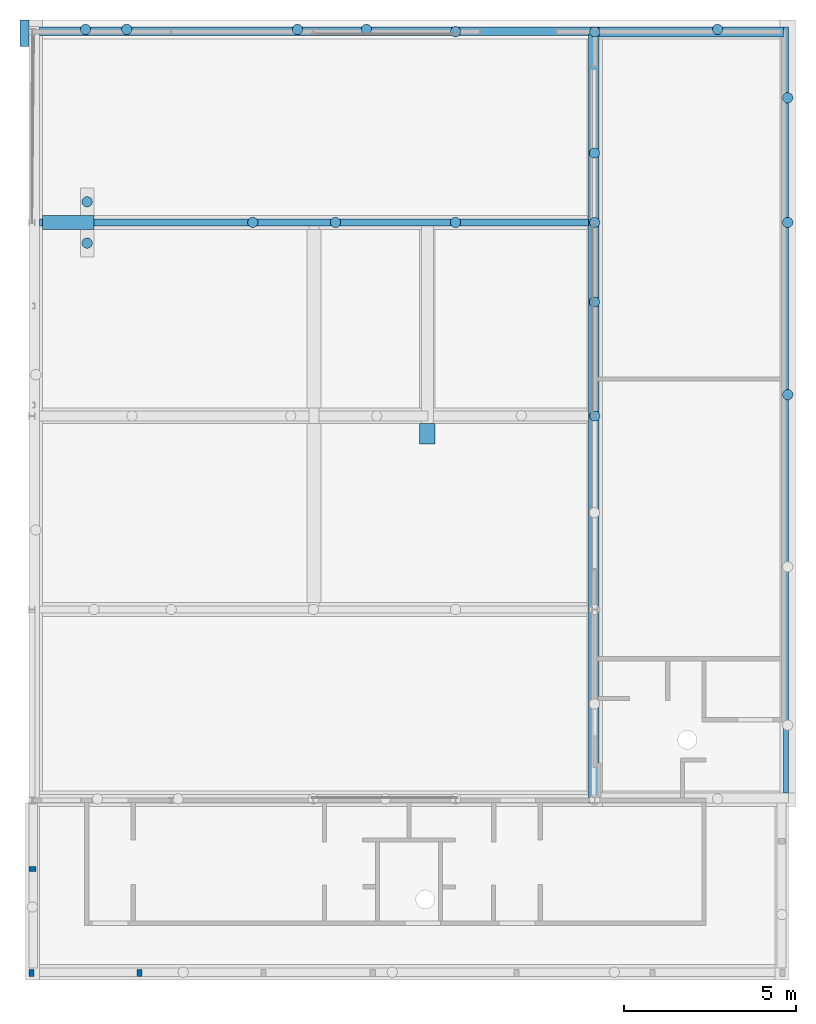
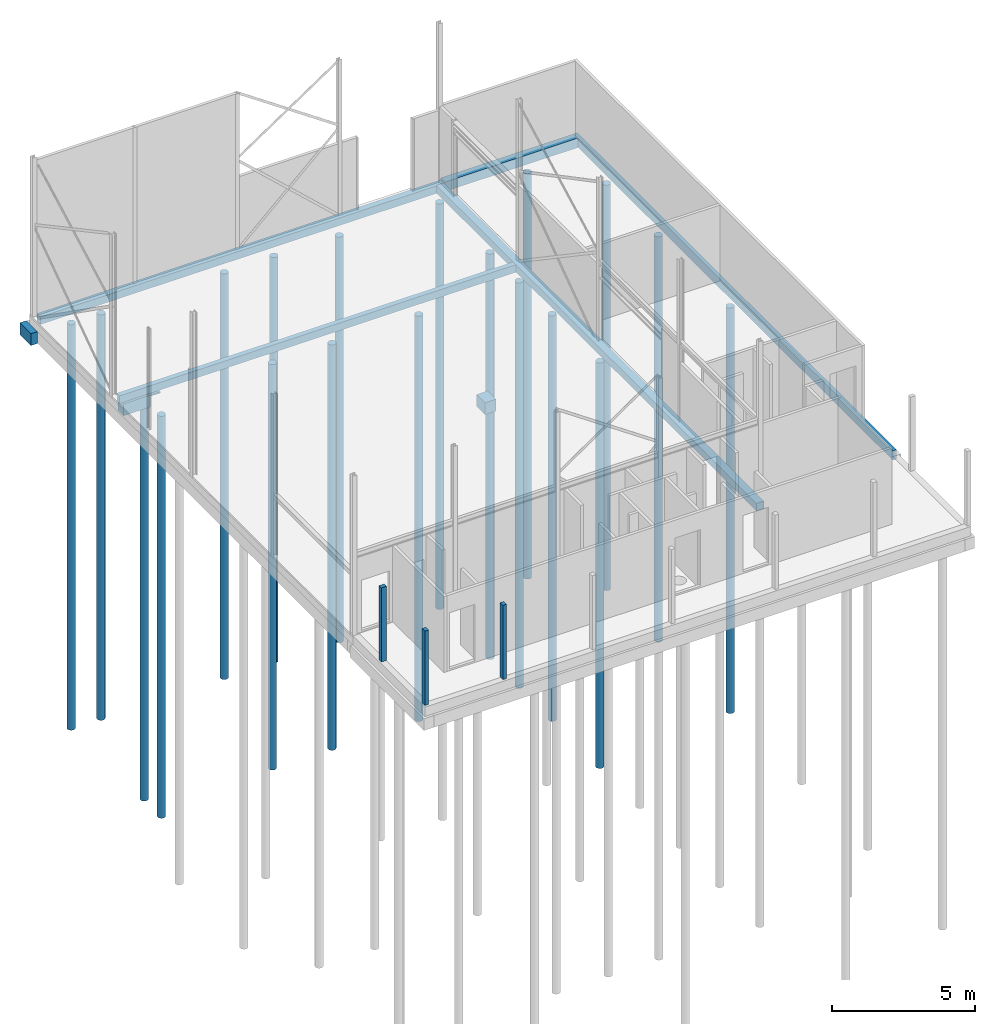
# One storey, part 2 of 17: 19 piles, 8 footings, 3 columns.
"""IFC2X3 building model written with IfcOpenShell, lengths in millimetres."""

from ifc_helpers import new_model, entity, si_unit, converted_unit, derived_unit, direction, frame, frame_2d, origin, origin_2d_with_axis, place, context, subcontext, project, spatial, polyline, rectangle, circle, outline, extrude, source, transform, mapped, material, type_object, type_shapes, element, save


model = new_model("IFC2X3")

# Units and contexts
model_context = context("Model", 3, precision=0.01, world=origin(), true_north=direction((6.123031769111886e-17, 1.0)))
plan_context = context("Plan", 3, precision=0.01, world=origin(), true_north=direction((6.123031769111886e-17, 1.0)))
body_context = subcontext(model_context, "Body", "Model", "MODEL_VIEW")
ifc_project = project(units=[si_unit("LENGTHUNIT", "METRE", prefix="MILLI"), si_unit("AREAUNIT", "SQUARE_METRE"), si_unit("VOLUMEUNIT", "CUBIC_METRE"), converted_unit("PLANEANGLEUNIT", "DEGREE", entity("IfcPlaneAngleMeasure", 0.017453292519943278), si_unit("PLANEANGLEUNIT", "RADIAN"), dimensions=[0, 0, 0, 0, 0, 0, 0]), si_unit("MASSUNIT", "GRAM", prefix="KILO"), derived_unit("MASSDENSITYUNIT", [(si_unit("MASSUNIT", "GRAM", prefix="KILO"), 1), (si_unit("LENGTHUNIT", "METRE"), -3)]), derived_unit("IONCONCENTRATIONUNIT", [(si_unit("MASSUNIT", "GRAM", prefix="KILO"), 1), (si_unit("LENGTHUNIT", "METRE"), -3)]), derived_unit("MOMENTOFINERTIAUNIT", [(si_unit("LENGTHUNIT", "METRE"), 4)]), si_unit("TIMEUNIT", "SECOND"), si_unit("FREQUENCYUNIT", "HERTZ"), si_unit("THERMODYNAMICTEMPERATUREUNIT", "DEGREE_CELSIUS"), derived_unit("THERMALTRANSMITTANCEUNIT", [(si_unit("MASSUNIT", "GRAM", prefix="KILO"), 1), (si_unit("THERMODYNAMICTEMPERATUREUNIT", "KELVIN"), -1), (si_unit("TIMEUNIT", "SECOND"), -3)]), derived_unit("THERMALCONDUCTANCEUNIT", [(si_unit("MASSUNIT", "GRAM", prefix="KILO"), 1), (si_unit("THERMODYNAMICTEMPERATUREUNIT", "KELVIN"), -1), (si_unit("TIMEUNIT", "SECOND"), -3), (si_unit("LENGTHUNIT", "METRE"), 1)]), derived_unit("VOLUMETRICFLOWRATEUNIT", [(si_unit("LENGTHUNIT", "METRE", prefix="DECI"), 3), (si_unit("TIMEUNIT", "SECOND"), -1)]), derived_unit("MASSFLOWRATEUNIT", [(si_unit("MASSUNIT", "GRAM", prefix="KILO"), 1), (si_unit("TIMEUNIT", "SECOND"), -1)]), derived_unit("ROTATIONALFREQUENCYUNIT", [(si_unit("TIMEUNIT", "SECOND"), -1)]), si_unit("ELECTRICCURRENTUNIT", "AMPERE"), si_unit("ELECTRICVOLTAGEUNIT", "VOLT"), si_unit("POWERUNIT", "WATT"), si_unit("FORCEUNIT", "NEWTON", prefix="KILO"), si_unit("ILLUMINANCEUNIT", "LUX"), si_unit("LUMINOUSFLUXUNIT", "LUMEN"), si_unit("LUMINOUSINTENSITYUNIT", "CANDELA"), si_unit("ENERGYUNIT", "JOULE"), derived_unit("USERDEFINED", [(si_unit("MASSUNIT", "GRAM", prefix="KILO"), -1), (si_unit("LENGTHUNIT", "METRE"), -2), (si_unit("TIMEUNIT", "SECOND"), 3), (si_unit("LUMINOUSFLUXUNIT", "LUMEN"), 1)]), derived_unit("USERDEFINED", [(si_unit("MASSUNIT", "GRAM", prefix="KILO"), 1), (si_unit("TIMEUNIT", "SECOND"), -3), (si_unit("LENGTHUNIT", "METRE"), 3), (si_unit("ELECTRICCURRENTUNIT", "AMPERE"), -2)]), derived_unit("SOUNDPOWERUNIT", [(si_unit("MASSUNIT", "GRAM", prefix="KILO"), 1), (si_unit("TIMEUNIT", "SECOND"), -3), (si_unit("LENGTHUNIT", "METRE"), 2)]), derived_unit("SOUNDPRESSUREUNIT", [(si_unit("MASSUNIT", "GRAM", prefix="KILO"), 1), (si_unit("LENGTHUNIT", "METRE"), -1), (si_unit("TIMEUNIT", "SECOND"), -2)]), derived_unit("LINEARVELOCITYUNIT", [(si_unit("LENGTHUNIT", "METRE"), 1), (si_unit("TIMEUNIT", "SECOND"), -1)]), si_unit("PRESSUREUNIT", "PASCAL"), derived_unit("USERDEFINED", [(si_unit("MASSUNIT", "GRAM", prefix="KILO"), 1), (si_unit("LENGTHUNIT", "METRE"), -2), (si_unit("TIMEUNIT", "SECOND"), -2)]), derived_unit("LINEARFORCEUNIT", [(si_unit("MASSUNIT", "GRAM", prefix="KILO"), 1), (si_unit("TIMEUNIT", "SECOND"), -2)]), derived_unit("PLANARFORCEUNIT", [(si_unit("MASSUNIT", "GRAM", prefix="KILO"), 1), (si_unit("LENGTHUNIT", "METRE"), -1), (si_unit("TIMEUNIT", "SECOND"), -2)]), derived_unit("SPECIFICHEATCAPACITYUNIT", [(si_unit("THERMODYNAMICTEMPERATUREUNIT", "KELVIN"), -1), (si_unit("LENGTHUNIT", "METRE"), 2), (si_unit("TIMEUNIT", "SECOND"), -2)]), derived_unit("HEATFLUXDENSITYUNIT", [(si_unit("MASSUNIT", "GRAM", prefix="KILO"), 1), (si_unit("TIMEUNIT", "SECOND"), -3)]), derived_unit("HEATINGVALUEUNIT", [(si_unit("LENGTHUNIT", "METRE"), 2), (si_unit("TIMEUNIT", "SECOND"), -2)]), derived_unit("VAPORPERMEABILITYUNIT", [(si_unit("LENGTHUNIT", "METRE"), -1), (si_unit("TIMEUNIT", "SECOND"), 1)]), derived_unit("DYNAMICVISCOSITYUNIT", [(si_unit("MASSUNIT", "GRAM", prefix="KILO"), 1), (si_unit("TIMEUNIT", "SECOND"), -1), (si_unit("LENGTHUNIT", "METRE"), -1)]), derived_unit("THERMALEXPANSIONCOEFFICIENTUNIT", [(si_unit("THERMODYNAMICTEMPERATUREUNIT", "KELVIN"), -1)]), derived_unit("MODULUSOFELASTICITYUNIT", [(si_unit("MASSUNIT", "GRAM", prefix="KILO"), 1), (si_unit("LENGTHUNIT", "METRE"), -1), (si_unit("TIMEUNIT", "SECOND"), -2)]), derived_unit("ISOTHERMALMOISTURECAPACITYUNIT", [(si_unit("MASSUNIT", "GRAM", prefix="KILO"), -1), (si_unit("LENGTHUNIT", "METRE"), 3)]), derived_unit("MOISTUREDIFFUSIVITYUNIT", [(si_unit("TIMEUNIT", "SECOND"), -1), (si_unit("LENGTHUNIT", "METRE"), 2)]), derived_unit("MASSPERLENGTHUNIT", [(si_unit("MASSUNIT", "GRAM", prefix="KILO"), 1), (si_unit("LENGTHUNIT", "METRE"), -1)]), derived_unit("THERMALRESISTANCEUNIT", [(si_unit("MASSUNIT", "GRAM", prefix="KILO"), -1), (si_unit("TIMEUNIT", "SECOND"), 3), (si_unit("THERMODYNAMICTEMPERATUREUNIT", "KELVIN"), 1)]), derived_unit("ACCELERATIONUNIT", [(si_unit("LENGTHUNIT", "METRE"), 1), (si_unit("TIMEUNIT", "SECOND"), -2)]), derived_unit("ANGULARVELOCITYUNIT", [(si_unit("TIMEUNIT", "SECOND"), -1), (si_unit("PLANEANGLEUNIT", "RADIAN"), 1)]), derived_unit("LINEARSTIFFNESSUNIT", [(si_unit("MASSUNIT", "GRAM", prefix="KILO"), 1), (si_unit("TIMEUNIT", "SECOND"), -2)]), derived_unit("WARPINGCONSTANTUNIT", [(si_unit("LENGTHUNIT", "METRE"), 6)]), derived_unit("LINEARMOMENTUNIT", [(si_unit("MASSUNIT", "GRAM", prefix="KILO"), 1), (si_unit("LENGTHUNIT", "METRE"), 1), (si_unit("TIMEUNIT", "SECOND"), -2)]), derived_unit("TORQUEUNIT", [(si_unit("MASSUNIT", "GRAM", prefix="KILO"), 1), (si_unit("LENGTHUNIT", "METRE"), 2), (si_unit("TIMEUNIT", "SECOND"), -2)])], contexts=[model_context, plan_context])

# Site, building, storey
site_placement = place(None, origin())
site = spatial("IfcSite", under=ifc_project, at=site_placement, Name="Default", CompositionType="ELEMENT")
building_placement = place(site_placement, origin())
building = spatial("IfcBuilding", under=site, at=building_placement, CompositionType="ELEMENT")
storey_placement = place(building_placement, origin())
storey = spatial("IfcBuildingStorey", under=building, at=storey_placement, Name="00 begane grond", CompositionType="ELEMENT", Elevation=0.0)

# Footing
ifc_material_1 = material(Name="ihwg beton")
type_product_1 = type_object("IfcTypeProduct", Name="16_SF_LIB_funderingsbalk_dw:260x500 (ihwg)", material=ifc_material_1)
shared_shape_1 = source(origin(), body_context, "Body", "SweptSolid", [
    extrude(rectangle(XDim=260.00000000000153, YDim=769.9999557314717, at=frame_2d((2.1600499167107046e-12, 0.0), x_axis=(1.0, 0.0))), frame((33936.192937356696, 38607.67036233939, -970.0)), (0.0, 0.0, 1.0), 499.9999999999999),
])
type_shapes(type_product_1, [shared_shape_1])
footing_1_placement = place(storey_placement, origin())
element("IfcFooting", 1, at=footing_1_placement, inside=storey, type_object=type_product_1, material=ifc_material_1, Name="16_SF_LIB_funderingsbalk_dw:260x500 (ihwg)", ObjectType="16_SF_LIB_funderingsbalk_dw:260x500 (ihwg)", context=body_context, shape_type="MappedRepresentation", body=[
    mapped(shared_shape_1, transform((0.0, 0.0, 0.0), scale=1.0)),
])

# Piles
shared_shape_2 = source(origin(), body_context, "Body", "SweptSolid", [
    extrude(circle(Radius=150.0, at=origin_2d_with_axis()), frame((35756.19293735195, 32512.67034020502, -18200.0)), (0.0, 0.0, 1.0), 17099.999999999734),
])
pile_1_placement = place(storey_placement, origin())
element("IfcPile", 2, at=pile_1_placement, inside=storey, material=ifc_material_1, Name="17_SFO_TLB_mortelschroefpaal_dw:Ø300_ihwg fund_type 01", ObjectType="17_SFO_TLB_mortelschroefpaal_dw:Ø300_ihwg fund_type 01", PredefinedType="NOTDEFINED", context=body_context, shape_type="MappedRepresentation", body=[
    mapped(shared_shape_2, transform((0.0, 0.0, 0.0), scale=1.0)),
])
shared_shape_3 = source(origin(), body_context, "Body", "SweptSolid", [
    extrude(circle(Radius=150.0, at=origin_2d_with_axis()), frame((35706.19293735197, 38717.67034020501, -18200.0)), (0.0, 0.0, 1.0), 17249.99999999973),
])
pile_2_placement = place(storey_placement, origin())
element("IfcPile", 3, at=pile_2_placement, inside=storey, material=ifc_material_1, Name="17_SFO_TLB_mortelschroefpaal_dw:Ø300_ihwg fund_type 01", ObjectType="17_SFO_TLB_mortelschroefpaal_dw:Ø300_ihwg fund_type 01", PredefinedType="NOTDEFINED", context=body_context, shape_type="MappedRepresentation", body=[
    mapped(shared_shape_3, transform((0.0, 0.0, 0.0), scale=1.0)),
])
shared_shape_4 = source(origin(), body_context, "Body", "SweptSolid", [
    extrude(circle(Radius=150.0, at=origin_2d_with_axis()), frame((46456.19293735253, 38652.67050785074, -18200.0)), (0.0, 0.0, 1.0), 17249.99999999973),
])
pile_3_placement = place(storey_placement, origin())
element("IfcPile", 4, at=pile_3_placement, inside=storey, material=ifc_material_1, Name="17_SFO_TLB_mortelschroefpaal_dw:Ø300_ihwg fund_type 01", ObjectType="17_SFO_TLB_mortelschroefpaal_dw:Ø300_ihwg fund_type 01", PredefinedType="NOTDEFINED", context=body_context, shape_type="MappedRepresentation", body=[
    mapped(shared_shape_4, transform((0.0, 0.0, 0.0), scale=1.0)),
])
shared_shape_5 = source(origin(), body_context, "Body", "SweptSolid", [
    extrude(circle(Radius=150.0, at=origin_2d_with_axis()), frame((42966.192937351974, 33112.67034020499, -18200.0)), (0.0, 0.0, 1.0), 17249.99999999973),
])
pile_4_placement = place(storey_placement, origin())
element("IfcPile", 5, at=pile_4_placement, inside=storey, material=ifc_material_1, Name="17_SFO_TLB_mortelschroefpaal_dw:Ø300_ihwg fund_type 01", ObjectType="17_SFO_TLB_mortelschroefpaal_dw:Ø300_ihwg fund_type 01", PredefinedType="NOTDEFINED", context=body_context, shape_type="MappedRepresentation", body=[
    mapped(shared_shape_5, transform((0.0, 0.0, 0.0), scale=1.0)),
])
shared_shape_6 = source(origin(), body_context, "Body", "SweptSolid", [
    extrude(circle(Radius=150.0, at=origin_2d_with_axis()), frame((46456.19293735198, 33112.67034020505, -18200.0)), (0.0, 0.0, 1.0), 17249.99999999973),
])
pile_5_placement = place(storey_placement, origin())
element("IfcPile", 6, at=pile_5_placement, inside=storey, material=ifc_material_1, Name="17_SFO_TLB_mortelschroefpaal_dw:Ø300_ihwg fund_type 01", ObjectType="17_SFO_TLB_mortelschroefpaal_dw:Ø300_ihwg fund_type 01", PredefinedType="NOTDEFINED", context=body_context, shape_type="MappedRepresentation", body=[
    mapped(shared_shape_6, transform((0.0, 0.0, 0.0), scale=1.0)),
])
shared_shape_7 = source(origin(), body_context, "Body", "SweptSolid", [
    extrude(circle(Radius=150.0, at=origin_2d_with_axis()), frame((50496.1929373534, 33112.67034020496, -18200.0)), (0.0, 0.0, 1.0), 17249.99999999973),
])
pile_6_placement = place(storey_placement, origin())
element("IfcPile", 7, at=pile_6_placement, inside=storey, material=ifc_material_1, Name="17_SFO_TLB_mortelschroefpaal_dw:Ø300_ihwg fund_type 01", ObjectType="17_SFO_TLB_mortelschroefpaal_dw:Ø300_ihwg fund_type 01", PredefinedType="NOTDEFINED", context=body_context, shape_type="MappedRepresentation", body=[
    mapped(shared_shape_7, transform((0.0, 0.0, 0.0), scale=1.0)),
])
shared_shape_8 = source(origin(), body_context, "Body", "SweptSolid", [
    extrude(circle(Radius=150.0, at=origin_2d_with_axis()), frame((50500.6929373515, 27492.670340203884, -18200.0)), (0.0, 0.0, 1.0), 17249.99999999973),
])
pile_7_placement = place(storey_placement, origin())
element("IfcPile", 8, at=pile_7_placement, inside=storey, material=ifc_material_1, Name="17_SFO_TLB_mortelschroefpaal_dw:Ø300_ihwg fund_type 01", ObjectType="17_SFO_TLB_mortelschroefpaal_dw:Ø300_ihwg fund_type 01", PredefinedType="NOTDEFINED", context=body_context, shape_type="MappedRepresentation", body=[
    mapped(shared_shape_8, transform((0.0, 0.0, 0.0), scale=1.0)),
])
shared_shape_9 = source(origin(), body_context, "Body", "SweptSolid", [
    extrude(circle(Radius=150.0, at=origin_2d_with_axis()), frame((56101.19293735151, 36732.67034020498, -18200.0)), (0.0, 0.0, 1.0), 17249.99999999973),
])
pile_8_placement = place(storey_placement, origin())
element("IfcPile", 9, at=pile_8_placement, inside=storey, material=ifc_material_1, Name="17_SFO_TLB_mortelschroefpaal_dw:Ø300_ihwg fund_type 01", ObjectType="17_SFO_TLB_mortelschroefpaal_dw:Ø300_ihwg fund_type 01", PredefinedType="NOTDEFINED", context=body_context, shape_type="MappedRepresentation", body=[
    mapped(shared_shape_9, transform((0.0, 0.0, 0.0), scale=1.0)),
])
shared_shape_10 = source(origin(), body_context, "Body", "SweptSolid", [
    extrude(circle(Radius=150.0, at=origin_2d_with_axis()), frame((56101.1929373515, 28112.67034020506, -18200.0)), (0.0, 0.0, 1.0), 17249.99999999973),
])
pile_9_placement = place(storey_placement, origin())
element("IfcPile", 10, at=pile_9_placement, inside=storey, material=ifc_material_1, Name="17_SFO_TLB_mortelschroefpaal_dw:Ø300_ihwg fund_type 01", ObjectType="17_SFO_TLB_mortelschroefpaal_dw:Ø300_ihwg fund_type 01", PredefinedType="NOTDEFINED", context=body_context, shape_type="MappedRepresentation", body=[
    mapped(shared_shape_10, transform((0.0, 0.0, 0.0), scale=1.0)),
])
shared_shape_11 = source(origin(), body_context, "Body", "SweptSolid", [
    extrude(circle(Radius=150.0, at=origin_2d_with_axis()), frame((56101.1929373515, 33112.67034020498, -18200.0)), (0.0, 0.0, 1.0), 17249.99999999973),
])
pile_10_placement = place(storey_placement, origin())
element("IfcPile", 11, at=pile_10_placement, inside=storey, material=ifc_material_1, Name="17_SFO_TLB_mortelschroefpaal_dw:Ø300_ihwg fund_type 01", ObjectType="17_SFO_TLB_mortelschroefpaal_dw:Ø300_ihwg fund_type 01", PredefinedType="NOTDEFINED", context=body_context, shape_type="MappedRepresentation", body=[
    mapped(shared_shape_11, transform((0.0, 0.0, 0.0), scale=1.0)),
])

# Footings
type_product_2 = type_object("IfcTypeProduct", Name="16_SF_LIB_funderingsbalk_dw:300x320 (ihwg)", material=ifc_material_1)
shared_shape_12 = source(origin(), body_context, "Body", "SweptSolid", [
    extrude(rectangle(XDim=22332.30016764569, YDim=300.0000000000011, at=frame_2d((998.3999441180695, 49.99999999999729), x_axis=(1.0, 0.0))), frame((50416.192937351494, 28412.220368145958, -470.0), z_axis=(0.0, 0.0, 1.0), x_axis=(0.0, -1.0, 0.0)), (0.0, 0.0, 1.0), 320.0),
])
type_shapes(type_product_2, [shared_shape_12])
footing_2_placement = place(storey_placement, origin())
element("IfcFooting", 12, at=footing_2_placement, inside=storey, type_object=type_product_2, material=ifc_material_1, Name="16_SF_LIB_funderingsbalk_dw:300x320 (ihwg)", ObjectType="16_SF_LIB_funderingsbalk_dw:300x320 (ihwg)", context=body_context, shape_type="MappedRepresentation", body=[
    mapped(shared_shape_12, transform((0.0, 0.0, 0.0), scale=1.0)),
])
type_product_3 = type_object("IfcTypeProduct", Name="16_SF_LIB_funderingsbalk_dw:250x320 (ihwg)", material=ifc_material_1)
shared_shape_13 = source(origin(), body_context, "Body", "SweptSolid", [
    extrude(outline(polyline([(-10733.333333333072, -95.76672254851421), (5216.666666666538, -95.76672254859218), (5216.666666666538, -58.46655490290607), (5516.666666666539, -58.46655490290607), (5516.666666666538, 154.23327745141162), (-10733.333333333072, 154.23327745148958), (-10733.333333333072, -95.76672254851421)])), frame((45099.52627068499, 38638.43706275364, -470.0)), (0.0, 0.0, 1.0), 320.0),
])
type_shapes(type_product_3, [shared_shape_13])
footing_3_placement = place(storey_placement, origin())
element("IfcFooting", 13, at=footing_3_placement, inside=storey, type_object=type_product_3, material=ifc_material_1, Name="16_SF_LIB_funderingsbalk_dw:250x320 (ihwg)", ObjectType="16_SF_LIB_funderingsbalk_dw:250x320 (ihwg)", context=body_context, shape_type="MappedRepresentation", body=[
    mapped(shared_shape_13, transform((0.0, 0.0, 0.0), scale=1.0)),
])
type_product_4 = type_object("IfcTypeProduct", Name="16_SF_LIB_funderingsbalk_dw:450x500 (ihwg)", material=ifc_material_1)
shared_shape_14 = source(origin(), body_context, "Body", "SweptSolid", [
    extrude(rectangle(XDim=595.0000000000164, YDim=449.99999999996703, at=frame_2d((-2.1600499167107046e-12, 0.0), x_axis=(1.0, 0.0))), frame((45631.65960402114, 26970.170340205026, -970.0), z_axis=(0.0, 0.0, 1.0), x_axis=(0.0, 1.0, 0.0)), (0.0, 0.0, 1.0), 500.00000000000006),
])
type_shapes(type_product_4, [shared_shape_14])
footing_4_placement = place(storey_placement, origin())
element("IfcFooting", 14, at=footing_4_placement, inside=storey, type_object=type_product_4, material=ifc_material_1, Name="16_SF_LIB_funderingsbalk_dw:450x500 (ihwg)", ObjectType="16_SF_LIB_funderingsbalk_dw:450x500 (ihwg)", context=body_context, shape_type="MappedRepresentation", body=[
    mapped(shared_shape_14, transform((0.0, 0.0, 0.0), scale=1.0)),
])
type_product_5 = type_object("IfcTypeProduct", Name="16_SF_LIB_funderingsbalk_dw:200x350 (ihwg)", material=ifc_material_1)
shared_shape_15 = source(origin(), body_context, "Body", "SweptSolid", [
    extrude(rectangle(XDim=15949.999999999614, YDim=199.99999999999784, at=frame_2d((824.8555827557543, -50.000000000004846), x_axis=(1.0, 0.0))), frame((43166.04852010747, 33062.67034020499, -470.0), z_axis=(0.0, 0.0, 1.0), x_axis=(-1.0, 0.0, 0.0)), (0.0, 0.0, 1.0), 320.0),
])
type_shapes(type_product_5, [shared_shape_15])
footing_5_placement = place(storey_placement, origin())
element("IfcFooting", 15, at=footing_5_placement, inside=storey, type_object=type_product_5, material=ifc_material_1, Name="16_SF_LIB_funderingsbalk_dw:200x350 (ihwg)", ObjectType="16_SF_LIB_funderingsbalk_dw:200x350 (ihwg)", context=body_context, shape_type="MappedRepresentation", body=[
    mapped(shared_shape_15, transform((0.0, 0.0, 0.0), scale=1.0)),
])
type_product_6 = type_object("IfcTypeProduct", Name="16_SF_LIB_funderingsbalk_dw:150x400 (ihwg)", material=ifc_material_1)
shared_shape_16 = source(origin(), body_context, "Body", "SweptSolid", [
    extrude(rectangle(XDim=22245.0, YDim=150.00000000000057, at=frame_2d((2164.5000000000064, 15.000000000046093), x_axis=(1.0, 0.0))), frame((56036.19293735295, 29834.670340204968, -470.0), z_axis=(0.0, 0.0, 1.0), x_axis=(0.0, -1.0, 0.0)), (0.0, 0.0, 1.0), 399.99999999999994),
])
type_shapes(type_product_6, [shared_shape_16])
footing_6_placement = place(storey_placement, origin())
element("IfcFooting", 16, at=footing_6_placement, inside=storey, type_object=type_product_6, material=ifc_material_1, Name="16_SF_LIB_funderingsbalk_dw:150x400 (ihwg)", ObjectType="16_SF_LIB_funderingsbalk_dw:150x400 (ihwg)", context=body_context, shape_type="MappedRepresentation", body=[
    mapped(shared_shape_16, transform((0.0, 0.0, 0.0), scale=1.0)),
])
type_product_7 = type_object("IfcTypeProduct", Name="16_SF_LIB_funderingsbalk_dw:300x400 (ihwg)", material=ifc_material_1)
shared_shape_17 = source(origin(), body_context, "Body", "SweptSolid", [
    extrude(rectangle(XDim=5360.000000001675, YDim=300.00000000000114, at=frame_2d((536.0000000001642, 12.539966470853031), x_axis=(1.0, 0.0))), frame((52760.192937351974, 38630.13037373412, -470.0)), (0.0, 0.0, 1.0), 400.0),
])
type_shapes(type_product_7, [shared_shape_17])
footing_7_placement = place(storey_placement, origin())
element("IfcFooting", 17, at=footing_7_placement, inside=storey, type_object=type_product_7, material=ifc_material_1, Name="16_SF_LIB_funderingsbalk_dw:300x400 (ihwg)", ObjectType="16_SF_LIB_funderingsbalk_dw:300x400 (ihwg)", context=body_context, shape_type="MappedRepresentation", body=[
    mapped(shared_shape_17, transform((0.0, 0.0, 0.0), scale=1.0)),
])

# Piles
shared_shape_18 = source(origin(), body_context, "Body", "SweptSolid", [
    extrude(circle(Radius=150.0, at=origin_2d_with_axis()), frame((41866.19293735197, 38717.67034020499, -18200.0)), (0.0, 0.0, 1.0), 17249.99999999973),
])
pile_11_placement = place(storey_placement, origin())
element("IfcPile", 18, at=pile_11_placement, inside=storey, material=ifc_material_1, Name="17_SFO_TLB_mortelschroefpaal_dw:Ø300_ihwg fund_type 01", ObjectType="17_SFO_TLB_mortelschroefpaal_dw:Ø300_ihwg fund_type 01", PredefinedType="NOTDEFINED", context=body_context, shape_type="MappedRepresentation", body=[
    mapped(shared_shape_18, transform((0.0, 0.0, 0.0), scale=1.0)),
])
shared_shape_19 = source(origin(), body_context, "Body", "SweptSolid", [
    extrude(circle(Radius=150.0, at=origin_2d_with_axis()), frame((43866.19293735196, 38717.67034020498, -18200.0)), (0.0, 0.0, 1.0), 17249.99999999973),
])
pile_12_placement = place(storey_placement, origin())
element("IfcPile", 19, at=pile_12_placement, inside=storey, material=ifc_material_1, Name="17_SFO_TLB_mortelschroefpaal_dw:Ø300_ihwg fund_type 01", ObjectType="17_SFO_TLB_mortelschroefpaal_dw:Ø300_ihwg fund_type 01", PredefinedType="NOTDEFINED", context=body_context, shape_type="MappedRepresentation", body=[
    mapped(shared_shape_19, transform((0.0, 0.0, 0.0), scale=1.0)),
])
shared_shape_20 = source(origin(), body_context, "Body", "SweptSolid", [
    extrude(circle(Radius=150.0, at=origin_2d_with_axis()), frame((50496.19293735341, 38647.17050784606, -18200.0)), (0.0, 0.0, 1.0), 17249.99999999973),
])
pile_13_placement = place(storey_placement, origin())
element("IfcPile", 20, at=pile_13_placement, inside=storey, material=ifc_material_1, Name="17_SFO_TLB_mortelschroefpaal_dw:Ø300_ihwg fund_type 01", ObjectType="17_SFO_TLB_mortelschroefpaal_dw:Ø300_ihwg fund_type 01", PredefinedType="NOTDEFINED", context=body_context, shape_type="MappedRepresentation", body=[
    mapped(shared_shape_20, transform((0.0, 0.0, 0.0), scale=1.0)),
])
shared_shape_21 = source(origin(), body_context, "Body", "SweptSolid", [
    extrude(circle(Radius=150.0, at=origin_2d_with_axis()), frame((54066.192937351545, 38717.67034020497, -18200.0)), (0.0, 0.0, 1.0), 17249.99999999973),
])
pile_14_placement = place(storey_placement, origin())
element("IfcPile", 21, at=pile_14_placement, inside=storey, material=ifc_material_1, Name="17_SFO_TLB_mortelschroefpaal_dw:Ø300_ihwg fund_type 01", ObjectType="17_SFO_TLB_mortelschroefpaal_dw:Ø300_ihwg fund_type 01", PredefinedType="NOTDEFINED", context=body_context, shape_type="MappedRepresentation", body=[
    mapped(shared_shape_21, transform((0.0, 0.0, 0.0), scale=1.0)),
])
shared_shape_22 = source(origin(), body_context, "Body", "SweptSolid", [
    extrude(circle(Radius=150.0, at=origin_2d_with_axis()), frame((36906.19293735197, 38717.67034020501, -18200.0)), (0.0, 0.0, 1.0), 17249.99999999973),
])
pile_15_placement = place(storey_placement, origin())
element("IfcPile", 22, at=pile_15_placement, inside=storey, material=ifc_material_1, Name="17_SFO_TLB_mortelschroefpaal_dw:Ø300_ihwg fund_type 01", ObjectType="17_SFO_TLB_mortelschroefpaal_dw:Ø300_ihwg fund_type 01", PredefinedType="NOTDEFINED", context=body_context, shape_type="MappedRepresentation", body=[
    mapped(shared_shape_22, transform((0.0, 0.0, 0.0), scale=1.0)),
])
shared_shape_23 = source(origin(), body_context, "Body", "SweptSolid", [
    extrude(circle(Radius=150.0, at=origin_2d_with_axis()), frame((50491.192937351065, 35132.67034020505, -18200.0)), (0.0, 0.0, 1.0), 17249.99999999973),
])
pile_16_placement = place(storey_placement, origin())
element("IfcPile", 23, at=pile_16_placement, inside=storey, material=ifc_material_1, Name="17_SFO_TLB_mortelschroefpaal_dw:Ø300_ihwg fund_type 01", ObjectType="17_SFO_TLB_mortelschroefpaal_dw:Ø300_ihwg fund_type 01", PredefinedType="NOTDEFINED", context=body_context, shape_type="MappedRepresentation", body=[
    mapped(shared_shape_23, transform((0.0, 0.0, 0.0), scale=1.0)),
])
shared_shape_24 = source(origin(), body_context, "Body", "SweptSolid", [
    extrude(circle(Radius=150.0, at=origin_2d_with_axis()), frame((50491.19293735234, 30802.670340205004, -18200.0)), (0.0, 0.0, 1.0), 17249.99999999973),
])
pile_17_placement = place(storey_placement, origin())
element("IfcPile", 24, at=pile_17_placement, inside=storey, material=ifc_material_1, Name="17_SFO_TLB_mortelschroefpaal_dw:Ø300_ihwg fund_type 01", ObjectType="17_SFO_TLB_mortelschroefpaal_dw:Ø300_ihwg fund_type 01", PredefinedType="NOTDEFINED", context=body_context, shape_type="MappedRepresentation", body=[
    mapped(shared_shape_24, transform((0.0, 0.0, 0.0), scale=1.0)),
])
shared_shape_25 = source(origin(), body_context, "Body", "SweptSolid", [
    extrude(circle(Radius=150.0, at=origin_2d_with_axis()), frame((40566.192937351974, 33112.670340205, -18200.0)), (0.0, 0.0, 1.0), 17249.99999999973),
])
pile_18_placement = place(storey_placement, origin())
element("IfcPile", 25, at=pile_18_placement, inside=storey, material=ifc_material_1, Name="17_SFO_TLB_mortelschroefpaal_dw:Ø300_ihwg fund_type 01", ObjectType="17_SFO_TLB_mortelschroefpaal_dw:Ø300_ihwg fund_type 01", PredefinedType="NOTDEFINED", context=body_context, shape_type="MappedRepresentation", body=[
    mapped(shared_shape_25, transform((0.0, 0.0, 0.0), scale=1.0)),
])
shared_shape_26 = source(origin(), body_context, "Body", "SweptSolid", [
    extrude(circle(Radius=150.0, at=origin_2d_with_axis()), frame((35756.19293735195, 33712.67034020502, -18200.0)), (0.0, 0.0, 1.0), 17099.999999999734),
])
pile_19_placement = place(storey_placement, origin())
element("IfcPile", 26, at=pile_19_placement, inside=storey, material=ifc_material_1, Name="17_SFO_TLB_mortelschroefpaal_dw:Ø300_ihwg fund_type 01", ObjectType="17_SFO_TLB_mortelschroefpaal_dw:Ø300_ihwg fund_type 01", PredefinedType="NOTDEFINED", context=body_context, shape_type="MappedRepresentation", body=[
    mapped(shared_shape_26, transform((0.0, 0.0, 0.0), scale=1.0)),
])

# Footing
type_product_8 = type_object("IfcTypeProduct", Name="16_SF_LIB_funderingsbalk_dw:400x500 (ihwg)", material=ifc_material_1)
shared_shape_27 = source(origin(), body_context, "Body", "SweptSolid", [
    extrude(outline(polyline([(-858.3333333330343, -183.33333333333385), (626.6666666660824, -183.33333333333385), (626.6666666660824, -133.33333333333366), (231.66666666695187, -133.33333333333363), (231.66666666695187, 316.6666666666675), (-858.3333333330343, 316.6666666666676), (-858.3333333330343, -183.33333333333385)])), frame((35324.526270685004, 32912.67034020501, -653.3333333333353), z_axis=(0.0, 1.0, 0.0), x_axis=(1.0, 0.0, 0.0)), (0.0, 0.0, 1.0), 400.0),
])
type_shapes(type_product_8, [shared_shape_27])
footing_8_placement = place(storey_placement, origin())
element("IfcFooting", 27, at=footing_8_placement, inside=storey, type_object=type_product_8, material=ifc_material_1, Name="16_SF_LIB_funderingsbalk_dw:400x500 (ihwg)", ObjectType="16_SF_LIB_funderingsbalk_dw:400x500 (ihwg)", context=body_context, shape_type="MappedRepresentation", body=[
    mapped(shared_shape_27, transform((0.0, 0.0, 0.0), scale=1.0)),
])

# Columns
ifc_material_2 = material(Name="constructiehout C24")
column_type = type_object("IfcColumnType", Name="28_SCO_TLB_houten kolom rechthoekig_dw:150x200 (C24)", PredefinedType="COLUMN", material=ifc_material_2)
shared_shape_28 = source(origin(), body_context, "Body", "SweptSolid", [
    extrude(rectangle(XDim=150.0, YDim=199.99999999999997, at=origin_2d_with_axis()), frame((0.0, 0.0, 0.0), z_axis=(0.0, 0.0, 1.0), x_axis=(-1.0, 0.0, 0.0)), (0.0, 0.0, 1.0), 3160.0000000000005),
])
type_shapes(column_type, [shared_shape_28])
column_1_placement = place(storey_placement, frame((37276.19293735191, 11312.67034019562, 0.0), z_axis=(0.0, 0.0, 1.0), x_axis=(-1.0, 0.0, 0.0)))
element("IfcColumn", 28, at=column_1_placement, inside=storey, type_object=column_type, material=ifc_material_2, Name="28_SCO_TLB_houten kolom rechthoekig_dw:150x200 (C24)", ObjectType="28_SCO_TLB_houten kolom rechthoekig_dw:150x200 (C24)", context=body_context, shape_type="MappedRepresentation", body=[
    mapped(shared_shape_28, transform((0.0, 0.0, 0.0), scale=1.0)),
])
column_2_placement = place(storey_placement, frame((34141.19293735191, 11312.670463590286, 0.0)))
element("IfcColumn", 29, at=column_2_placement, inside=storey, type_object=column_type, material=ifc_material_2, Name="28_SCO_TLB_houten kolom rechthoekig_dw:150x200 (C24)", ObjectType="28_SCO_TLB_houten kolom rechthoekig_dw:150x200 (C24)", context=body_context, shape_type="MappedRepresentation", body=[
    mapped(shared_shape_28, transform((0.0, 0.0, 0.0), scale=1.0)),
])
column_3_placement = place(storey_placement, frame((34166.19293735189, 14332.670510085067, 0.0), z_axis=(0.0, 0.0, 1.0), x_axis=(0.0, 1.0, 0.0)))
element("IfcColumn", 30, at=column_3_placement, inside=storey, type_object=column_type, material=ifc_material_2, Name="28_SCO_TLB_houten kolom rechthoekig_dw:150x200 (C24)", ObjectType="28_SCO_TLB_houten kolom rechthoekig_dw:150x200 (C24)", context=body_context, shape_type="MappedRepresentation", body=[
    mapped(shared_shape_28, transform((0.0, 0.0, 0.0), scale=1.0)),
])

save(model, "model.ifc")
